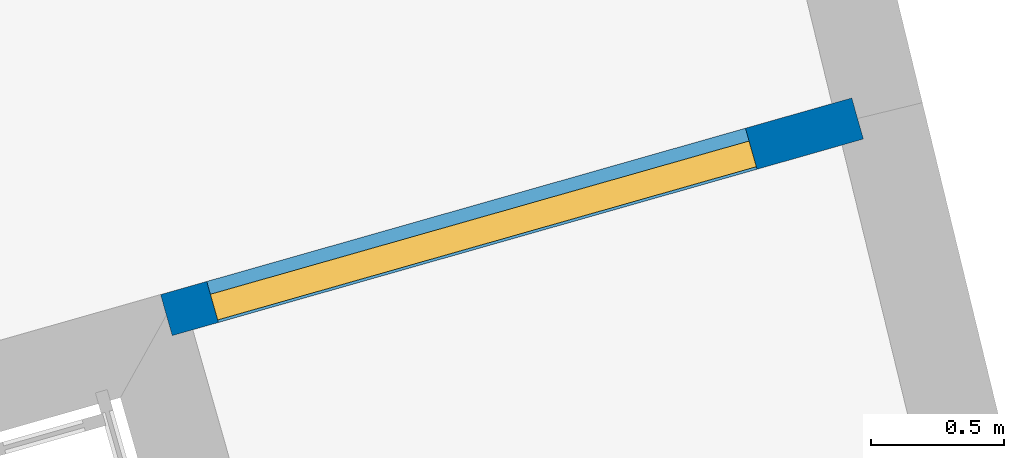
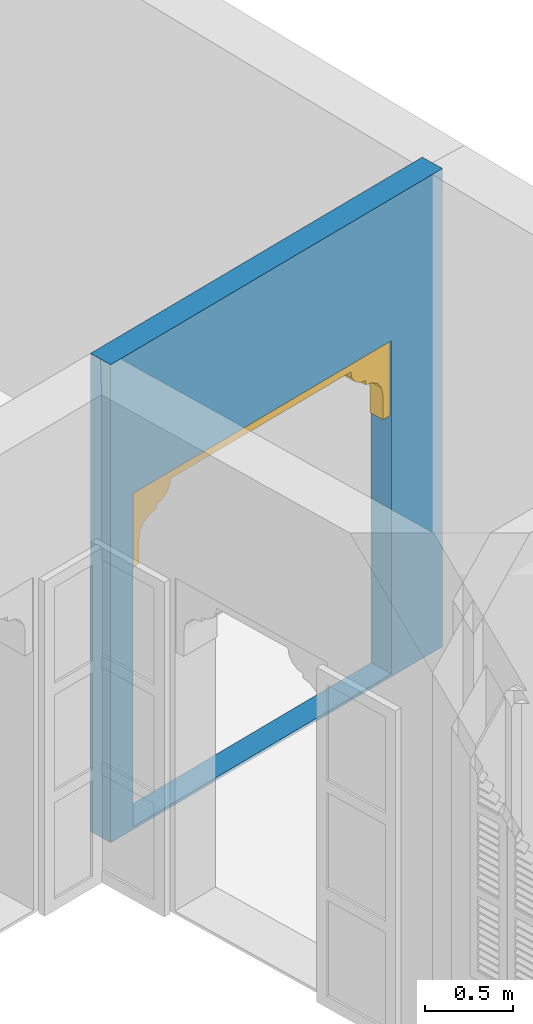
# One storey, part 11 of 14: 1 door, 1 wall, 1 opening.
"""IFC4 building model written with IfcOpenShell, lengths in metres."""

from ifc_helpers import new_model, si_unit, frame, origin, origin_with_axes, place, context, subcontext, project, spatial, polyline, outline, extrude, faceted_brep, source, transform, mapped, material, layer, layer_set, layer_usage, type_object, type_shapes, element, fill, save


model = new_model("IFC4")

# Units and contexts
model_context = context("Model", 3, world=origin_with_axes())
body_context = subcontext(model_context, "Body", "Model", "MODEL_VIEW")
ifc_project = project(units=[si_unit("PLANEANGLEUNIT", "RADIAN"), si_unit("MASSUNIT", "GRAM", prefix="KILO"), si_unit("FORCEUNIT", "NEWTON", prefix="KILO"), si_unit("LENGTHUNIT", "METRE"), si_unit("AREAUNIT", "SQUARE_METRE"), si_unit("VOLUMEUNIT", "CUBIC_METRE")], contexts=[model_context, model_context])

# Site, building, storey
site_placement = place(None, origin_with_axes())
site = spatial("IfcSite", under=ifc_project, at=site_placement, Name="Site plot-3", CompositionType="ELEMENT")
building_placement = place(None, origin_with_axes())
building = spatial("IfcBuilding", under=site, at=building_placement, Name="Building plot-3", CompositionType="ELEMENT")
storey_placement = place(None, origin_with_axes())
storey = spatial("IfcBuildingStorey", under=building, at=storey_placement, Name="plot-3 0", CompositionType="ELEMENT", Elevation=0.0)

# Wall, opening, door
ifc_material = material(Name="Masonry")
ifc_layer = layer(ifc_material, 0.16, ventilated=False)
ifc_layer_set = layer_set([ifc_layer], Name="interior_0.08_0.08")
ifc_layer_usage = layer_usage(ifc_layer_set, "AXIS2", "POSITIVE", -0.08)
wall_type = type_object("IfcWallType", Name="interior_0.08_0.08", PredefinedType="SOLIDWALL", material=ifc_layer_set)
wall_placement = place(storey_placement, frame((12.4669492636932, 25.8174306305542, 0.0), z_axis=(0.0, 0.0, 1.0), x_axis=(0.961841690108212, 0.273606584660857, 0.0)))
wall = element("IfcWall", 1, at=wall_placement, inside=storey, type_object=wall_type, material=ifc_layer_usage, Name="interior", context=body_context, shape_type="SweptSolid", body=[
    extrude(outline(polyline([(-5.81299169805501e-16, 0.0800000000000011), (5.9109634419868e-16, -0.0800000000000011), (2.69461758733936, -0.080000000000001), (2.69461758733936, 0.0800000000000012), (-5.81299169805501e-16, 0.0800000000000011)])), origin_with_axes(), (0.0, 0.0, 1.0), 3.3),
])
opening_placement = place(wall_placement, frame((0.179999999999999, 0.0, 0.02)))
opening = element("IfcOpeningElement", 2, at=opening_placement, cuts=wall, Name="My Opening", ObjectType="Opening", context=body_context, shape_type="SweptSolid", body=[
    extrude(outline(polyline([(0.0, -0.100000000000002), (2.1, -0.100000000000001), (2.1, 1.1), (1.94289029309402e-15, 1.1), (0.0, -0.100000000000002)])), origin_with_axes(), (0.0, 0.0, 1.0), 2.3),
])
door_type = type_object("IfcDoorType", Name="arch-2100x2300-thin", OperationType="SINGLE_SWING_LEFT", PredefinedType="NOTDEFINED")
shared_shape = source(origin(), body_context, "Body", "Brep", [
    faceted_brep([(2.1, 0.03, 1.78), (2.1, 0.03, 1.95), (2.04, 0.03, 1.95), (2.04, 0.03, 1.78), (2.04, 0.13, 1.95), (2.04, 0.13, 1.78), (2.1, 0.03, 2.12), (2.029, 0.03, 2.004), (2.1, 0.13, 1.78), (2.1, 0.13, 1.95), (2.029, 0.13, 2.004), (1.999, 0.03, 2.049), (2.1, 0.13, 2.12), (1.999, 0.13, 2.049), (1.954, 0.03, 2.079), (2.1, 0.13, 2.29), (2.1, 0.03, 2.29), (1.954, 0.13, 2.079), (1.9, 0.03, 2.09), (1.9, 0.03, 2.12), (1.854, 0.03, 2.129), (1.78, 0.13, 2.29), (1.78, 0.03, 2.29), (1.9, 0.13, 2.12), (1.854, 0.13, 2.129), (1.9, 0.13, 2.09), (1.815, 0.03, 2.155), (1.789, 0.13, 2.194), (1.78, 0.13, 2.24), (1.78, 0.03, 2.24), (1.789, 0.03, 2.194), (1.815, 0.13, 2.155), (0.06, 0.03, 1.78), (0.06, 0.03, 1.95), (0.0, 0.03, 1.95), (0.0, 0.03, 1.78), (0.06, 0.13, 1.78), (0.06, 0.13, 1.95), (0.071, 0.03, 2.004), (0.0, 0.03, 2.12), (0.0, 0.13, 1.95), (0.0, 0.13, 1.78), (0.071, 0.13, 2.004), (0.101, 0.03, 2.049), (0.0, 0.13, 2.12), (0.101, 0.13, 2.049), (0.146, 0.03, 2.079), (0.0, 0.03, 2.29), (0.0, 0.13, 2.29), (0.146, 0.13, 2.079), (0.2, 0.03, 2.12), (0.2, 0.03, 2.09), (0.246, 0.03, 2.129), (0.32, 0.03, 2.29), (0.32, 0.13, 2.29), (0.246, 0.13, 2.129), (0.2, 0.13, 2.12), (0.2, 0.13, 2.09), (0.285, 0.03, 2.155), (0.32, 0.13, 2.24), (0.311, 0.13, 2.194), (0.311, 0.03, 2.194), (0.32, 0.03, 2.24), (0.285, 0.13, 2.155)], [[[0, 1, 2, 3]], [[4, 5, 3, 2]], [[1, 6, 7, 2]], [[1, 0, 8, 9]], [[5, 8, 0, 3]], [[5, 4, 9, 8]], [[10, 4, 2, 7]], [[6, 11, 7]], [[6, 1, 9, 12]], [[4, 10, 12, 9]], [[13, 10, 7, 11]], [[6, 14, 11]], [[12, 15, 16, 6]], [[12, 10, 13]], [[17, 13, 11, 14]], [[18, 14, 6, 19]], [[6, 16, 20, 19]], [[16, 15, 21, 22]], [[23, 24, 15, 12]], [[12, 13, 17]], [[25, 17, 14, 18]], [[23, 25, 18, 19]], [[24, 23, 19, 20]], [[16, 26, 20]], [[15, 27, 28, 21]], [[16, 22, 29, 30]], [[31, 15, 24]], [[23, 12, 17, 25]], [[31, 24, 20, 26]], [[16, 30, 26]], [[28, 27, 30, 29]], [[27, 15, 31]], [[27, 31, 26, 30]], [[32, 33, 34, 35]], [[33, 32, 36, 37]], [[33, 38, 39, 34]], [[35, 34, 40, 41]], [[32, 35, 41, 36]], [[41, 40, 37, 36]], [[38, 33, 37, 42]], [[38, 43, 39]], [[44, 40, 34, 39]], [[40, 44, 42, 37]], [[43, 38, 42, 45]], [[43, 46, 39]], [[39, 47, 48, 44]], [[45, 42, 44]], [[46, 43, 45, 49]], [[50, 39, 46, 51]], [[50, 52, 47, 39]], [[53, 54, 48, 47]], [[44, 48, 55, 56]], [[49, 45, 44]], [[51, 46, 49, 57]], [[50, 51, 57, 56]], [[52, 50, 56, 55]], [[52, 58, 47]], [[54, 59, 60, 48]], [[61, 62, 53, 47]], [[55, 48, 63]], [[57, 49, 44, 56]], [[58, 52, 55, 63]], [[58, 61, 47]], [[62, 61, 60, 59]], [[63, 48, 60]], [[61, 58, 63, 60]], [[62, 59, 28, 29]], [[59, 54, 21, 28]], [[53, 62, 29, 22]], [[54, 53, 22, 21]]]),
])
type_shapes(door_type, [shared_shape])
door_placement = place(storey_placement, frame((12.6674414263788, 25.7704956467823, 0.02), z_axis=(0.0, 0.0, 1.0), x_axis=(2.01986754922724, 0.574573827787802, 0.0)))
door = element("IfcDoor", 3, at=door_placement, inside=storey, type_object=door_type, Name="kitchen living inside door", OverallHeight=2.3, OverallWidth=2.1, context=body_context, shape_type="MappedRepresentation", body=[
    mapped(shared_shape, transform((0.0, 0.0, 0.0), scale=1.0)),
])
fill(opening, door)

save(model, "model.ifc")
